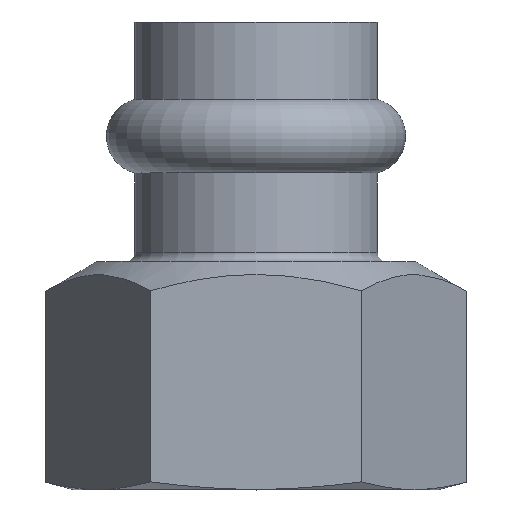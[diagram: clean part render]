
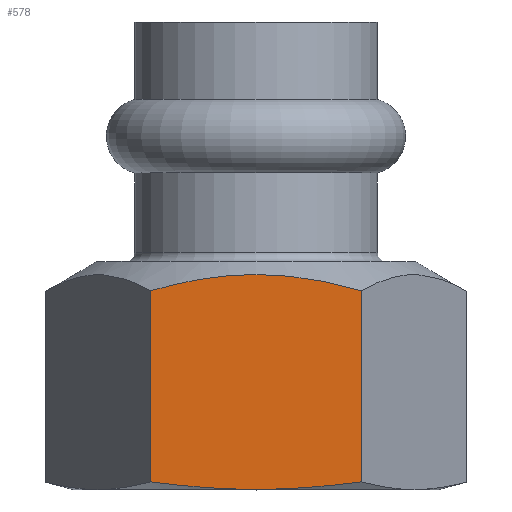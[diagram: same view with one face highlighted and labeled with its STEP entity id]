
A CAD part, top view. The second image highlights one B-rep face of the part: STEP entity #578.
In plain terms, the highlighted planar face has unit normal (0, 0, 1).
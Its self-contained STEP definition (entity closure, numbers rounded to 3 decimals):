
#18=(
BOUNDED_CURVE()
B_SPLINE_CURVE(2,(#1016,#1017,#1018),.UNSPECIFIED.,.F.,.F.)
B_SPLINE_CURVE_WITH_KNOTS((3,3),(0.24,1.222),
 .UNSPECIFIED.)
CURVE()
GEOMETRIC_REPRESENTATION_ITEM()
RATIONAL_B_SPLINE_CURVE((1.044,1.125,1.125))
REPRESENTATION_ITEM('')
);
#19=(
BOUNDED_CURVE()
B_SPLINE_CURVE(2,(#1019,#1020,#1021),.UNSPECIFIED.,.F.,.F.)
B_SPLINE_CURVE_WITH_KNOTS((3,3),(1.206,2.164),
 .UNSPECIFIED.)
CURVE()
GEOMETRIC_REPRESENTATION_ITEM()
RATIONAL_B_SPLINE_CURVE((1.,1.048,1.02))
REPRESENTATION_ITEM('')
);
#20=(
BOUNDED_CURVE()
B_SPLINE_CURVE(2,(#1023,#1024,#1025),.UNSPECIFIED.,.F.,.F.)
B_SPLINE_CURVE_WITH_KNOTS((3,3),(0.248,1.206),
 .UNSPECIFIED.)
CURVE()
GEOMETRIC_REPRESENTATION_ITEM()
RATIONAL_B_SPLINE_CURVE((1.02,1.048,1.))
REPRESENTATION_ITEM('')
);
#21=(
BOUNDED_CURVE()
B_SPLINE_CURVE(2,(#1028,#1029,#1030),.UNSPECIFIED.,.F.,.F.)
B_SPLINE_CURVE_WITH_KNOTS((3,3),(1.222,2.204),
 .UNSPECIFIED.)
CURVE()
GEOMETRIC_REPRESENTATION_ITEM()
RATIONAL_B_SPLINE_CURVE((1.125,1.125,1.044))
REPRESENTATION_ITEM('')
);
#44=PLANE('',#676);
#67=LINE('',#1013,#87);
#68=LINE('',#1027,#88);
#87=VECTOR('',#833,10.);
#88=VECTOR('',#836,10.);
#128=FACE_OUTER_BOUND('',#167,.T.);
#167=EDGE_LOOP('',(#473,#474,#475,#476,#477,#478));
#268=VERTEX_POINT('',#985);
#274=VERTEX_POINT('',#1000);
#276=VERTEX_POINT('',#1009);
#277=VERTEX_POINT('',#1015);
#278=VERTEX_POINT('',#1022);
#279=VERTEX_POINT('',#1026);
#348=EDGE_CURVE('',#274,#276,#67,.T.);
#349=EDGE_CURVE('',#274,#277,#18,.T.);
#350=EDGE_CURVE('',#268,#276,#19,.T.);
#351=EDGE_CURVE('',#278,#268,#20,.T.);
#352=EDGE_CURVE('',#279,#278,#68,.T.);
#353=EDGE_CURVE('',#277,#279,#21,.T.);
#473=ORIENTED_EDGE('',*,*,#349,.F.);
#474=ORIENTED_EDGE('',*,*,#348,.T.);
#475=ORIENTED_EDGE('',*,*,#350,.F.);
#476=ORIENTED_EDGE('',*,*,#351,.F.);
#477=ORIENTED_EDGE('',*,*,#352,.F.);
#478=ORIENTED_EDGE('',*,*,#353,.F.);
#578=ADVANCED_FACE('',(#128),#44,.T.);
#676=AXIS2_PLACEMENT_3D('',#1014,#834,#835);
#833=DIRECTION('',(0.,-1.,0.));
#834=DIRECTION('center_axis',(0.,0.,
1.));
#835=DIRECTION('ref_axis',(-1.,0.,0.));
#836=DIRECTION('',(0.,-1.,0.));
#985=CARTESIAN_POINT('',(0.,-41.,16.));
#1000=CARTESIAN_POINT('',(-9.238,-23.584,16.));
#1009=CARTESIAN_POINT('',(-9.238,-40.337,16.));
#1013=CARTESIAN_POINT('',(-9.238,-10.,16.));
#1014=CARTESIAN_POINT('Origin',(9.238,-10.,16.));
#1015=CARTESIAN_POINT('',(0.,-22.155,16.));
#1016=CARTESIAN_POINT('Ctrl Pts',(-9.238,-23.584,16.));
#1017=CARTESIAN_POINT('Ctrl Pts',(-4.287,-22.155,16.));
#1018=CARTESIAN_POINT('Ctrl Pts',(0.,-22.155,
16.));
#1019=CARTESIAN_POINT('Ctrl Pts',(0.,-41.,16.));
#1020=CARTESIAN_POINT('Ctrl Pts',(-4.287,-41.,16.));
#1021=CARTESIAN_POINT('Ctrl Pts',(-9.238,-40.337,16.));
#1022=CARTESIAN_POINT('',(9.238,-40.337,16.));
#1023=CARTESIAN_POINT('Ctrl Pts',(9.238,-40.337,16.));
#1024=CARTESIAN_POINT('Ctrl Pts',(4.287,-41.,16.));
#1025=CARTESIAN_POINT('Ctrl Pts',(0.,-41.,16.));
#1026=CARTESIAN_POINT('',(9.238,-23.584,16.));
#1027=CARTESIAN_POINT('',(9.238,-10.,16.));
#1028=CARTESIAN_POINT('Ctrl Pts',(0.,-22.155,
16.));
#1029=CARTESIAN_POINT('Ctrl Pts',(4.287,-22.155,16.));
#1030=CARTESIAN_POINT('Ctrl Pts',(9.238,-23.584,16.));
